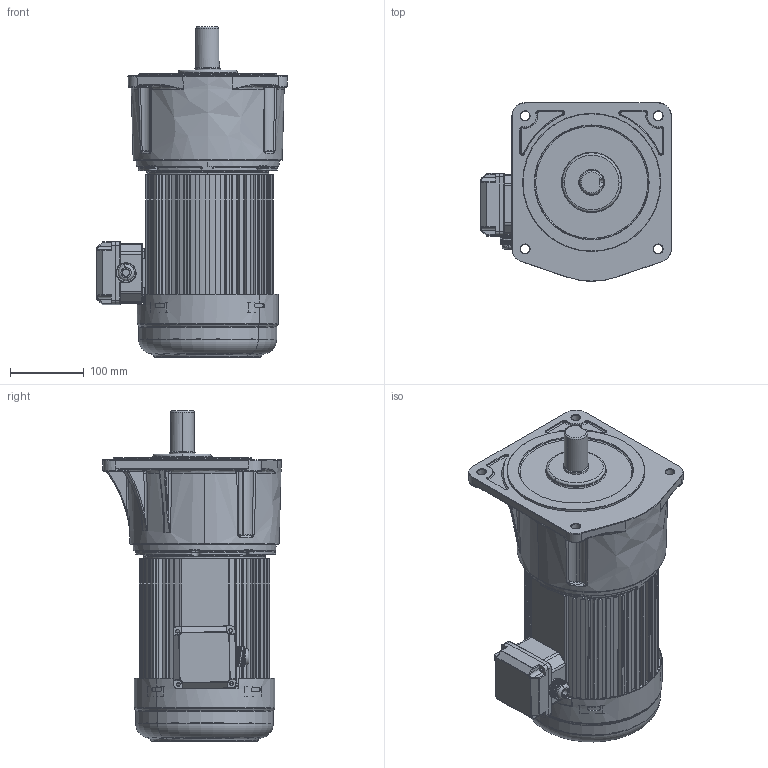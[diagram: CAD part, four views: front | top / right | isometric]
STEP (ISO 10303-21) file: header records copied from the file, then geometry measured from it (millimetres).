
FILE_DESCRIPTION (( 'STEP AP203' ), '1' );
FILE_NAME ('1500W饜4#湍价陬蕾宒.STEP', '2020-04-16T08:22:08', ( 'china' ), ( 'china' ), 'SwSTEP 2.0', 'SolidWorks 2019', '' );
FILE_SCHEMA (( 'CONFIG_CONTROL_DESIGN' ));
Length unit declared in the file: millimetre
Products named in the file (9): 諉芛; 湍价陬諉盄碟裔; 1500W棠憤迖殤; 4-xg3-0926; 1500W儂褲; 4#蕾宒眊极; 瑞欶; 1500W饜4#湍价陬蕾宒; 蜊輛綴諉盄碟釱3
Assembly tree (8 placements, depth 2):
  1500W饜4#湍价陬蕾宒
    1500W儂褲
    瑞欶
    蜊輛綴諉盄碟釱3
    諉芛
    湍价陬諉盄碟裔
    1500W棠憤迖殤
    4-xg3-0926
    4#蕾宒眊极
Bounding box: 258.49 x 241.97 x 447.45 mm (x, y, z)
Volume: 5232934.9 mm3; surface area: 941132.6 mm2
Topology: 9 solids, 10 shells, 3513 faces, 9221 edges, 5640 vertices
Faces by surface type: plane 1185, cylinder 994, bspline 766, torus 306, cone 200, sphere 62
Entity records: 236483 total; most frequent: CARTESIAN_POINT 155574, ORIENTED_EDGE 18145, DIRECTION 14563, EDGE_CURVE 9074, VERTEX_POINT 5640, AXIS2_PLACEMENT_3D 5313, LINE 3937, VECTOR 3937
